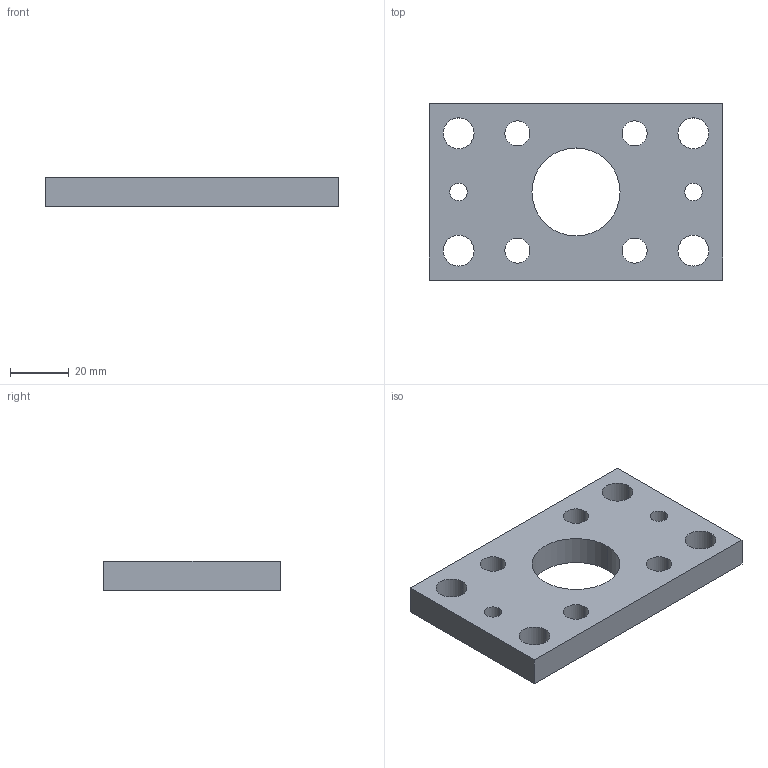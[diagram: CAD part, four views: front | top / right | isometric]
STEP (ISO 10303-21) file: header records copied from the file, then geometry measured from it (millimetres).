
FILE_DESCRIPTION (( 'STEP AP203' ), '1' );
FILE_NAME ('3DPS54.STEP', '2002-11-20T10:07:56', ( 'Francesc' ), ( 'propia' ), 'SwSTEP 2.0', 'SolidWorks 2001039', '' );
FILE_SCHEMA (( 'CONFIG_CONTROL_DESIGN' ));
Length unit declared in the file: millimetre
Products named in the file (1): 2
Bounding box: 100 x 60 x 10 mm (x, y, z)
Volume: 46632.5 mm3; surface area: 16233.6 mm2
Topology: 1 solids, 1 shells, 28 faces, 78 edges, 52 vertices
Faces by surface type: cylinder 22, plane 6
Entity records: 1047 total; most frequent: DIRECTION 180, CARTESIAN_POINT 159, ORIENTED_EDGE 156, EDGE_CURVE 78, AXIS2_PLACEMENT_3D 73, VERTEX_POINT 52, EDGE_LOOP 50, CIRCLE 44
